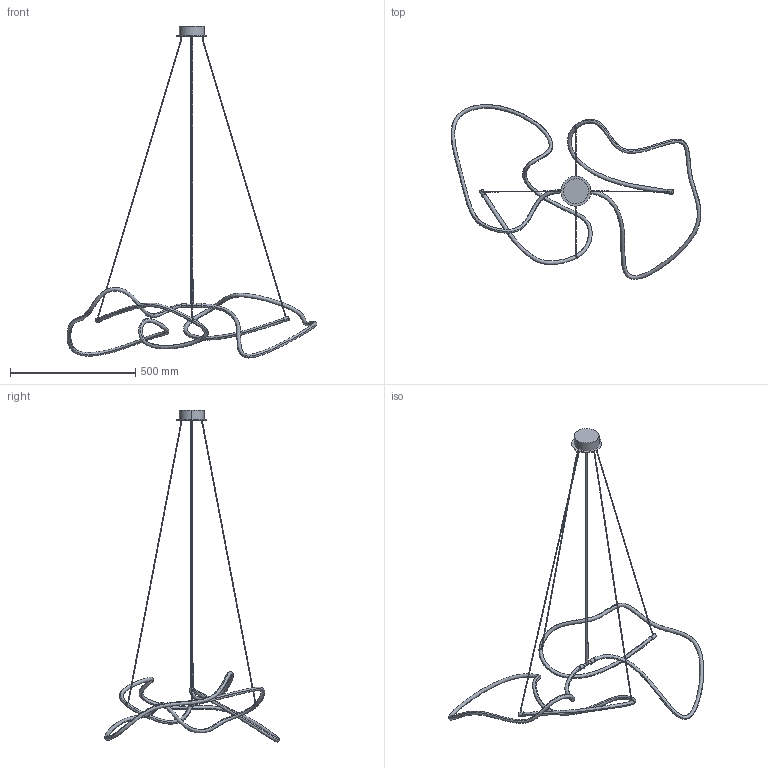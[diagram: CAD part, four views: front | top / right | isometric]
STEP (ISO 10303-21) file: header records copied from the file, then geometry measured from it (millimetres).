
FILE_DESCRIPTION(/* description */ (''),/* implementation_level */ '2;1');
FILE_NAME(/* name */ 'Kinoko Chandelier Mini',/* time_stamp */ '2023-01-16T09:45:55+01:00',/* author */ (''),/* organization */ (''),/* preprocessor_version */ 'ST-DEVELOPER v15',/* originating_system */ '',/* authorisation */ '');
FILE_SCHEMA (('AUTOMOTIVE_DESIGN'));
Length unit declared in the file: millimetre
Products named in the file (1): Document
Bounding box: 999.64 x 699.38 x 1327.95 mm (x, y, z)
Volume: 461099.3 mm3; surface area: 369364.4 mm2
Topology: 21 solids, 23 shells, 88 faces, 144 edges, 100 vertices
Faces by surface type: bspline 46, plane 42
Entity records: 8832 total; most frequent: CARTESIAN_POINT 7818, ORIENTED_EDGE 268, EDGE_CURVE 138, VERTEX_POINT 92, ADVANCED_FACE 88, FACE_OUTER_BOUND 88, EDGE_LOOP 88, DIRECTION 50
